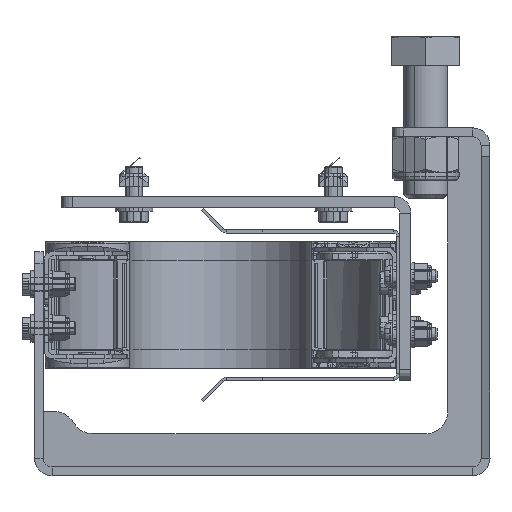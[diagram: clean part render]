
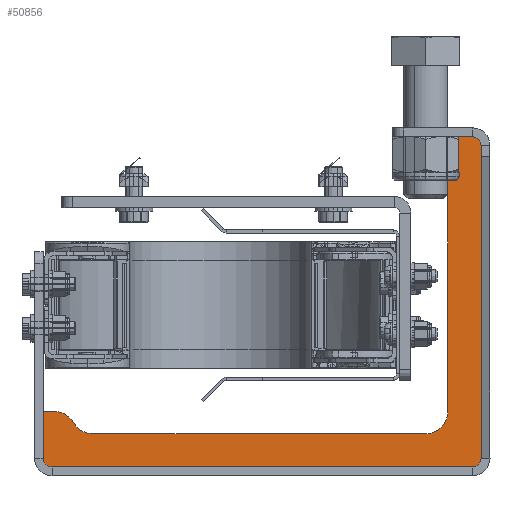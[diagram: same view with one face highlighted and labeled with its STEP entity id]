
A CAD part, left-side view. The second image highlights one B-rep face of the part: STEP entity #50856.
In plain terms, the highlighted planar face has unit normal (-1, 0, 0) as drawn and (0, 0, -1) by its records, which use the part's own axes.
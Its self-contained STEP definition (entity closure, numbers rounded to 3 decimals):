
#166 = AXIS2_PLACEMENT_3D ( 'NONE', #60308, #79648, #17236 ) ;
#838 = CIRCLE ( 'NONE', #58547, 4. ) ;
#1860 = CARTESIAN_POINT ( 'NONE',  ( 72.5, 173.5, -26.5 ) ) ;
#2568 = CARTESIAN_POINT ( 'NONE',  ( -72.5, -16., -26.5 ) ) ;
#2772 = ORIENTED_EDGE ( 'NONE', *, *, #50160, .T. ) ;
#3498 = LINE ( 'NONE', #69084, #57135 ) ;
#6759 = FACE_OUTER_BOUND ( 'NONE', #33916, .T. ) ;
#6943 = ORIENTED_EDGE ( 'NONE', *, *, #43896, .T. ) ;
#7812 = EDGE_CURVE ( 'NONE', #66458, #9661, #838, .T. ) ;
#7992 = CARTESIAN_POINT ( 'NONE',  ( -72.5, -5., -26.5 ) ) ;
#8068 = CARTESIAN_POINT ( 'NONE',  ( 51.5, 162.5, -26.5 ) ) ;
#8346 = VECTOR ( 'NONE', #80358, 1000. ) ;
#9189 = VERTEX_POINT ( 'NONE', #60115 ) ;
#9661 = VERTEX_POINT ( 'NONE', #63862 ) ;
#9727 = CIRCLE ( 'NONE', #68495, 4. ) ;
#13657 = AXIS2_PLACEMENT_3D ( 'NONE', #71580, #34682, #22444 ) ;
#13872 = DIRECTION ( 'NONE',  ( 0., 1., 0. ) ) ;
#14908 = CARTESIAN_POINT ( 'NONE',  ( 51.5, -5., -26.5 ) ) ;
#17236 = DIRECTION ( 'NONE',  ( 0., 1., 0. ) ) ;
#18044 = DIRECTION ( 'NONE',  ( 0., 0., 1. ) ) ;
#19388 = CARTESIAN_POINT ( 'NONE',  ( -68.5, -16., -26.5 ) ) ;
#19802 = DIRECTION ( 'NONE',  ( 0., 0., -1. ) ) ;
#19928 = DIRECTION ( 'NONE',  ( 0., 1., 0. ) ) ;
#20783 = EDGE_CURVE ( 'NONE', #32223, #66458, #3498, .T. ) ;
#21069 = DIRECTION ( 'NONE',  ( 1., 0., 0. ) ) ;
#21663 = DIRECTION ( 'NONE',  ( 0., 1., 0. ) ) ;
#22444 = DIRECTION ( 'NONE',  ( 0., 1., 0. ) ) ;
#22539 = ORIENTED_EDGE ( 'NONE', *, *, #38798, .T. ) ;
#24796 = VERTEX_POINT ( 'NONE', #7992 ) ;
#26360 = ORIENTED_EDGE ( 'NONE', *, *, #67247, .T. ) ;
#26467 = ORIENTED_EDGE ( 'NONE', *, *, #38151, .T. ) ;
#27002 = CIRCLE ( 'NONE', #13657, 10. ) ;
#27370 = VECTOR ( 'NONE', #21663, 1000. ) ;
#27761 = VERTEX_POINT ( 'NONE', #14908 ) ;
#27989 = DIRECTION ( 'NONE',  ( 1., 0., 0. ) ) ;
#28421 = LINE ( 'NONE', #58660, #76254 ) ;
#28782 = LINE ( 'NONE', #59896, #65923 ) ;
#29181 = AXIS2_PLACEMENT_3D ( 'NONE', #42785, #18044, #61144 ) ;
#30795 = LINE ( 'NONE', #8068, #78655 ) ;
#31264 = ORIENTED_EDGE ( 'NONE', *, *, #7812, .T. ) ;
#32223 = VERTEX_POINT ( 'NONE', #60058 ) ;
#32232 = EDGE_CURVE ( 'NONE', #27761, #76543, #27002, .T. ) ;
#33828 = AXIS2_PLACEMENT_3D ( 'NONE', #50292, #19802, #56586 ) ;
#33866 = CARTESIAN_POINT ( 'NONE',  ( 72.5, 177.5, -26.5 ) ) ;
#33916 = EDGE_LOOP ( 'NONE', ( #52530, #51002, #60867, #22539, #6943, #26467, #65656, #48844, #60812, #31264, #78825, #26360, #2772 ) ) ;
#34037 = EDGE_CURVE ( 'NONE', #24796, #27761, #28782, .T. ) ;
#34682 = DIRECTION ( 'NONE',  ( 0., 0., 1. ) ) ;
#37778 = CARTESIAN_POINT ( 'NONE',  ( 56.5, 163.84, -26.5 ) ) ;
#37951 = VECTOR ( 'NONE', #21069, 1000. ) ;
#38151 = EDGE_CURVE ( 'NONE', #57969, #76538, #30795, .T. ) ;
#38667 = DIRECTION ( 'NONE',  ( 0., 0., -1. ) ) ;
#38798 = EDGE_CURVE ( 'NONE', #55781, #72991, #41030, .T. ) ;
#39258 = EDGE_CURVE ( 'NONE', #9661, #9189, #51246, .T. ) ;
#41030 = CIRCLE ( 'NONE', #29181, 10. ) ;
#42215 = CARTESIAN_POINT ( 'NONE',  ( 72.5, -16., -26.5 ) ) ;
#42649 = CARTESIAN_POINT ( 'NONE',  ( 61.5, 5., -26.5 ) ) ;
#42785 = CARTESIAN_POINT ( 'NONE',  ( 51.5, 155.179, -26.5 ) ) ;
#43068 = VERTEX_POINT ( 'NONE', #68710 ) ;
#43896 = EDGE_CURVE ( 'NONE', #72991, #57969, #80586, .T. ) ;
#44425 = CARTESIAN_POINT ( 'NONE',  ( 51.5, 172.5, -26.5 ) ) ;
#47889 = CARTESIAN_POINT ( 'NONE',  ( 72.5, -20., -26.5 ) ) ;
#48844 = ORIENTED_EDGE ( 'NONE', *, *, #73676, .T. ) ;
#50160 = EDGE_CURVE ( 'NONE', #43068, #24796, #67350, .T. ) ;
#50292 = CARTESIAN_POINT ( 'NONE',  ( -68.5, -16., -26.5 ) ) ;
#50566 = PLANE ( 'NONE',  #33828 ) ;
#50856 = ADVANCED_FACE ( 'NONE', ( #6759 ), #50566, .T. ) ;
#51002 = ORIENTED_EDGE ( 'NONE', *, *, #32232, .T. ) ;
#51165 = EDGE_CURVE ( 'NONE', #76538, #51806, #56536, .T. ) ;
#51246 = LINE ( 'NONE', #47889, #8346 ) ;
#51550 = DIRECTION ( 'NONE',  ( 0., -1., 0. ) ) ;
#51806 = VERTEX_POINT ( 'NONE', #57413 ) ;
#52530 = ORIENTED_EDGE ( 'NONE', *, *, #34037, .T. ) ;
#53983 = CIRCLE ( 'NONE', #80371, 4. ) ;
#54108 = CARTESIAN_POINT ( 'NONE',  ( 61.5, 155.179, -26.5 ) ) ;
#55477 = CARTESIAN_POINT ( 'NONE',  ( 51.5, 177.5, -26.5 ) ) ;
#55781 = VERTEX_POINT ( 'NONE', #54108 ) ;
#56536 = LINE ( 'NONE', #33866, #37951 ) ;
#56586 = DIRECTION ( 'NONE',  ( 0., 1., 0. ) ) ;
#57135 = VECTOR ( 'NONE', #51550, 1000. ) ;
#57413 = CARTESIAN_POINT ( 'NONE',  ( 72.5, 177.5, -26.5 ) ) ;
#57969 = VERTEX_POINT ( 'NONE', #44425 ) ;
#58233 = EDGE_CURVE ( 'NONE', #76543, #55781, #28421, .T. ) ;
#58547 = AXIS2_PLACEMENT_3D ( 'NONE', #42215, #61099, #73940 ) ;
#58660 = CARTESIAN_POINT ( 'NONE',  ( 61.5, -5., -26.5 ) ) ;
#59896 = CARTESIAN_POINT ( 'NONE',  ( 61.5, -5., -26.5 ) ) ;
#60058 = CARTESIAN_POINT ( 'NONE',  ( 76.5, 173.5, -26.5 ) ) ;
#60115 = CARTESIAN_POINT ( 'NONE',  ( -68.5, -20., -26.5 ) ) ;
#60308 = CARTESIAN_POINT ( 'NONE',  ( 61.5, 172.5, -26.5 ) ) ;
#60812 = ORIENTED_EDGE ( 'NONE', *, *, #20783, .T. ) ;
#60867 = ORIENTED_EDGE ( 'NONE', *, *, #58233, .T. ) ;
#61099 = DIRECTION ( 'NONE',  ( 0., 0., -1. ) ) ;
#61144 = DIRECTION ( 'NONE',  ( 0., 1., 0. ) ) ;
#63862 = CARTESIAN_POINT ( 'NONE',  ( 72.5, -20., -26.5 ) ) ;
#65656 = ORIENTED_EDGE ( 'NONE', *, *, #51165, .T. ) ;
#65781 = DIRECTION ( 'NONE',  ( 0., 1., 0. ) ) ;
#65923 = VECTOR ( 'NONE', #27989, 1000. ) ;
#66458 = VERTEX_POINT ( 'NONE', #78760 ) ;
#67247 = EDGE_CURVE ( 'NONE', #9189, #43068, #9727, .T. ) ;
#67350 = LINE ( 'NONE', #2568, #27370 ) ;
#68495 = AXIS2_PLACEMENT_3D ( 'NONE', #19388, #38667, #19928 ) ;
#68710 = CARTESIAN_POINT ( 'NONE',  ( -72.5, -16., -26.5 ) ) ;
#69084 = CARTESIAN_POINT ( 'NONE',  ( 76.5, -16., -26.5 ) ) ;
#71580 = CARTESIAN_POINT ( 'NONE',  ( 51.5, 5., -26.5 ) ) ;
#72991 = VERTEX_POINT ( 'NONE', #37778 ) ;
#73676 = EDGE_CURVE ( 'NONE', #51806, #32223, #53983, .T. ) ;
#73940 = DIRECTION ( 'NONE',  ( 0., 1., 0. ) ) ;
#76254 = VECTOR ( 'NONE', #65781, 1000. ) ;
#76327 = DIRECTION ( 'NONE',  ( 0., 0., -1. ) ) ;
#76538 = VERTEX_POINT ( 'NONE', #55477 ) ;
#76543 = VERTEX_POINT ( 'NONE', #42649 ) ;
#77109 = DIRECTION ( 'NONE',  ( 0., 1., 0. ) ) ;
#78655 = VECTOR ( 'NONE', #77109, 1000. ) ;
#78760 = CARTESIAN_POINT ( 'NONE',  ( 76.5, -16., -26.5 ) ) ;
#78825 = ORIENTED_EDGE ( 'NONE', *, *, #39258, .T. ) ;
#79648 = DIRECTION ( 'NONE',  ( 0., 0., -1. ) ) ;
#80358 = DIRECTION ( 'NONE',  ( -1., 0., 0. ) ) ;
#80371 = AXIS2_PLACEMENT_3D ( 'NONE', #1860, #76327, #13872 ) ;
#80586 = CIRCLE ( 'NONE', #166, 10. ) ;
